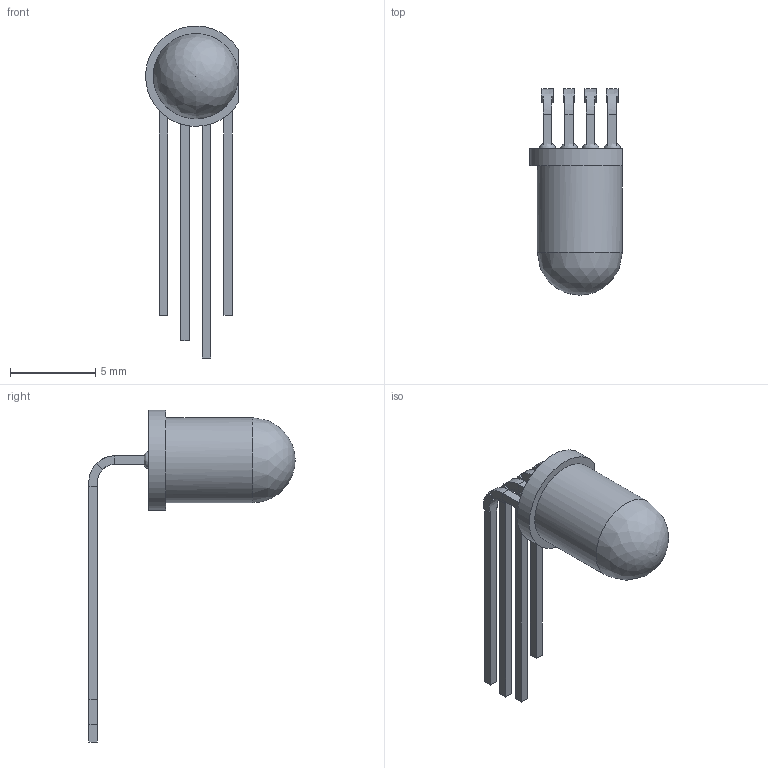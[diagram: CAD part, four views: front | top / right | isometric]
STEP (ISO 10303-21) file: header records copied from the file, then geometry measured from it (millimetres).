
FILE_DESCRIPTION(/* description */ (''),/* implementation_level */ '2;1');
FILE_NAME(/* name */ 'LE6E69~1',/* time_stamp */ '2022-11-08T16:31:41+01:00',/* author */ (''),/* organization */ (''),/* preprocessor_version */ 'ST-DEVELOPER v16.5',/* originating_system */ '',/* authorisation */ '');
FILE_SCHEMA (('AUTOMOTIVE_DESIGN'));
Length unit declared in the file: millimetre
Products named in the file (1): Document
Bounding box: 5.45 x 12.12 x 19.52 mm (x, y, z)
Volume: 160.1 mm3; surface area: 332.1 mm2
Topology: 1 solids, 6 shells, 80 faces, 205 edges, 131 vertices
Faces by surface type: plane 48, bspline 29, cylinder 3
Full cylindrical faces by diameter (mm): 5 x1
Entity records: 4909 total; most frequent: CARTESIAN_POINT 3500, ORIENTED_EDGE 383, EDGE_CURVE 200, B_SPLINE_CURVE_WITH_KNOTS 179, VERTEX_POINT 131, EDGE_LOOP 84, ADVANCED_FACE 80, FACE_OUTER_BOUND 80
